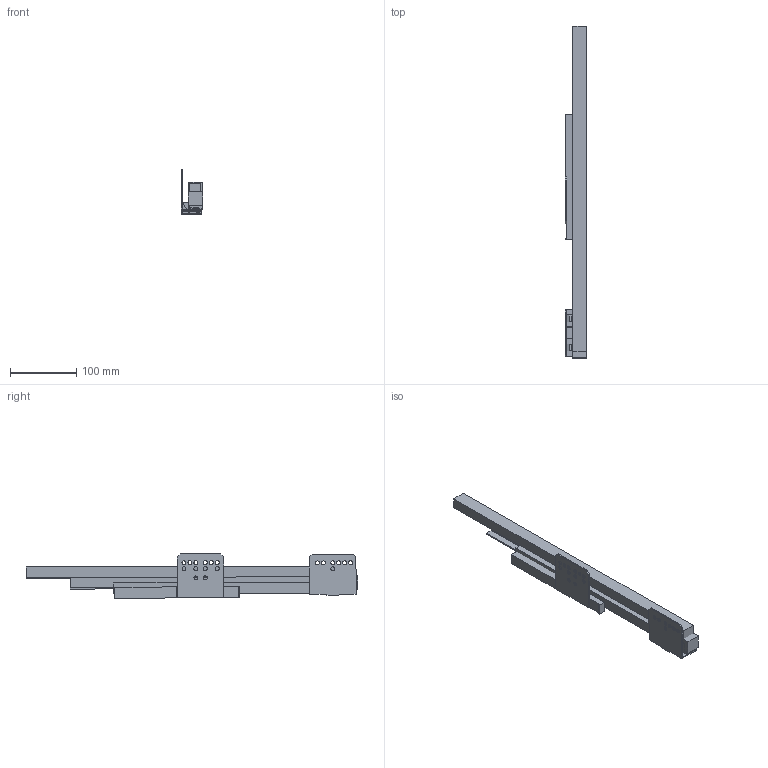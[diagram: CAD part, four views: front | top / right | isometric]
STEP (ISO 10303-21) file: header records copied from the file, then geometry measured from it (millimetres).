
FILE_DESCRIPTION (( 'STEP AP214' ), '1' );
FILE_NAME ('_IMOS Dynamic-XP VA 40kg NL500 LI.step', '2010-07-07T08:06:14', ( 'grass' ), ( '' ), 'SwSTEP 2.0', 'SolidWorks 2010', '' );
FILE_SCHEMA (( 'AUTOMOTIVE_DESIGN' ));
Length unit declared in the file: millimetre
Products named in the file (1): _IMOS Dynamic-XP VA 40kg NL500 LI
Bounding box: 32.04 x 499.89 x 66.67 mm (x, y, z)
Volume: 417019.5 mm3; surface area: 147936.3 mm2
Topology: 7 solids, 7 shells, 151 faces, 411 edges, 274 vertices
Faces by surface type: plane 111, cylinder 40
Entity records: 4913 total; most frequent: CARTESIAN_POINT 837, ORIENTED_EDGE 822, DIRECTION 795, EDGE_CURVE 411, VECTOR 331, LINE 331, VERTEX_POINT 274, AXIS2_PLACEMENT_3D 232
